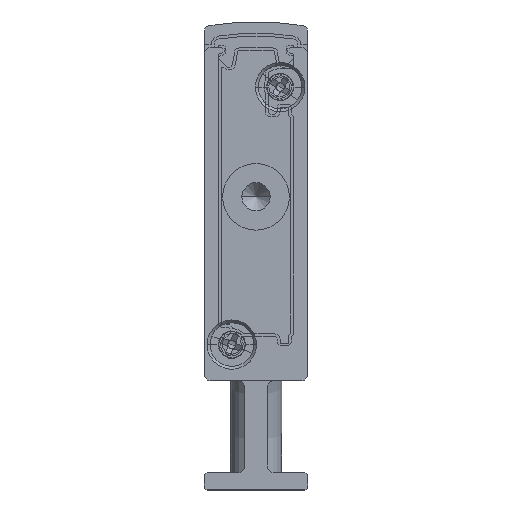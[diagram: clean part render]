
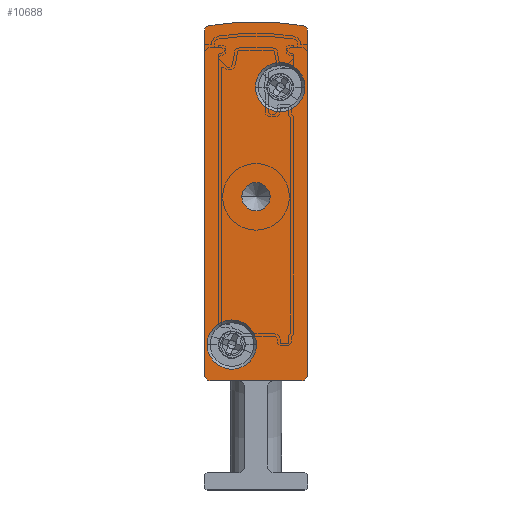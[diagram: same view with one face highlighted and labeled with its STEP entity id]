
A CAD part, front view. The second image highlights one B-rep face of the part: STEP entity #10688.
In plain terms, the highlighted planar face has unit normal (0, -1, 0).
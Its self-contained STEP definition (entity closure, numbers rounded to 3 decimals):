
#364 = CARTESIAN_POINT ( 'NONE',  ( 9., -2.5, 39.902 ) ) ;
#408 = DIRECTION ( 'NONE',  ( 0., 1., 0. ) ) ;
#667 = ORIENTED_EDGE ( 'NONE', *, *, #8329, .F. ) ;
#1035 = EDGE_CURVE ( 'NONE', #7669, #11381, #2316, .T. ) ;
#1284 = VERTEX_POINT ( 'NONE', #4800 ) ;
#1602 = CARTESIAN_POINT ( 'NONE',  ( 0., -2.5, 39.902 ) ) ;
#1928 = EDGE_CURVE ( 'NONE', #9806, #6538, #18126, .T. ) ;
#1998 = DIRECTION ( 'NONE',  ( 0., -1., 0. ) ) ;
#2012 = AXIS2_PLACEMENT_3D ( 'NONE', #7307, #2748, #17922 ) ;
#2306 = EDGE_LOOP ( 'NONE', ( #4945, #10925 ) ) ;
#2316 = CIRCLE ( 'NONE', #8695, 0.5 ) ;
#2382 = VERTEX_POINT ( 'NONE', #2643 ) ;
#2415 = FACE_BOUND ( 'NONE', #10074, .T. ) ;
#2435 = CARTESIAN_POINT ( 'NONE',  ( 5.75, -2.5, 25.5 ) ) ;
#2544 = CIRCLE ( 'NONE', #8162, 1.25 ) ;
#2643 = CARTESIAN_POINT ( 'NONE',  ( 3.25, -2.5, 25.5 ) ) ;
#2671 = DIRECTION ( 'NONE',  ( 1., 0., 0. ) ) ;
#2748 = DIRECTION ( 'NONE',  ( 0., -1., 0. ) ) ;
#2837 = AXIS2_PLACEMENT_3D ( 'NONE', #8946, #16389, #2671 ) ;
#2947 = EDGE_CURVE ( 'NONE', #6538, #9806, #7853, .T. ) ;
#3009 = ORIENTED_EDGE ( 'NONE', *, *, #11232, .F. ) ;
#3439 = ORIENTED_EDGE ( 'NONE', *, *, #6491, .F. ) ;
#3579 = EDGE_CURVE ( 'NONE', #13659, #1284, #7066, .T. ) ;
#4080 = DIRECTION ( 'NONE',  ( 0., 0., -1. ) ) ;
#4334 = CARTESIAN_POINT ( 'NONE',  ( 0., -2.5, 10. ) ) ;
#4800 = CARTESIAN_POINT ( 'NONE',  ( 9., -2.5, 10. ) ) ;
#4945 = ORIENTED_EDGE ( 'NONE', *, *, #2947, .F. ) ;
#5347 = CARTESIAN_POINT ( 'NONE',  ( 4.5, -2.5, 25.5 ) ) ;
#5508 = CARTESIAN_POINT ( 'NONE',  ( 4.55, -2.5, 12.65 ) ) ;
#5537 = AXIS2_PLACEMENT_3D ( 'NONE', #10516, #19661, #12052 ) ;
#5989 = FACE_BOUND ( 'NONE', #6656, .T. ) ;
#6016 = VERTEX_POINT ( 'NONE', #12916 ) ;
#6090 = CARTESIAN_POINT ( 'NONE',  ( 0.5, -2.5, 39.902 ) ) ;
#6378 = LINE ( 'NONE', #13244, #15386 ) ;
#6456 = DIRECTION ( 'NONE',  ( 1., 0., 0. ) ) ;
#6491 = EDGE_CURVE ( 'NONE', #9085, #16703, #13402, .T. ) ;
#6538 = VERTEX_POINT ( 'NONE', #5508 ) ;
#6613 = AXIS2_PLACEMENT_3D ( 'NONE', #6984, #1998, #6456 ) ;
#6656 = EDGE_LOOP ( 'NONE', ( #6738, #18207 ) ) ;
#6738 = ORIENTED_EDGE ( 'NONE', *, *, #8970, .T. ) ;
#6958 = CARTESIAN_POINT ( 'NONE',  ( 9., -2.5, 39.902 ) ) ;
#6984 = CARTESIAN_POINT ( 'NONE',  ( 2.4, -2.5, 12.65 ) ) ;
#6998 = CARTESIAN_POINT ( 'NONE',  ( 6.6, -2.5, 35.05 ) ) ;
#7066 = LINE ( 'NONE', #6958, #13218 ) ;
#7307 = CARTESIAN_POINT ( 'NONE',  ( 6.6, -2.5, 35.05 ) ) ;
#7387 = EDGE_CURVE ( 'NONE', #1284, #12884, #17859, .T. ) ;
#7487 = CARTESIAN_POINT ( 'NONE',  ( 0.5, -2.5, 9.5 ) ) ;
#7669 = VERTEX_POINT ( 'NONE', #7487 ) ;
#7717 = ORIENTED_EDGE ( 'NONE', *, *, #12417, .F. ) ;
#7853 = CIRCLE ( 'NONE', #6613, 2.15 ) ;
#7902 = CARTESIAN_POINT ( 'NONE',  ( 4.45, -2.5, 35.05 ) ) ;
#7939 = CARTESIAN_POINT ( 'NONE',  ( 4.5, -2.5, 17.092 ) ) ;
#8139 = ORIENTED_EDGE ( 'NONE', *, *, #7387, .F. ) ;
#8162 = AXIS2_PLACEMENT_3D ( 'NONE', #11686, #14454, #10084 ) ;
#8289 = DIRECTION ( 'NONE',  ( 0., 1., 0. ) ) ;
#8329 = EDGE_CURVE ( 'NONE', #16703, #9085, #18713, .T. ) ;
#8695 = AXIS2_PLACEMENT_3D ( 'NONE', #10134, #13064, #13193 ) ;
#8923 = DIRECTION ( 'NONE',  ( 0., 0., 1. ) ) ;
#8946 = CARTESIAN_POINT ( 'NONE',  ( 2.4, -2.5, 12.65 ) ) ;
#8970 = EDGE_CURVE ( 'NONE', #2382, #17393, #2544, .T. ) ;
#9085 = VERTEX_POINT ( 'NONE', #7902 ) ;
#9154 = VERTEX_POINT ( 'NONE', #15451 ) ;
#9315 = EDGE_CURVE ( 'NONE', #17393, #2382, #19071, .T. ) ;
#9533 = EDGE_CURVE ( 'NONE', #18261, #9154, #19042, .T. ) ;
#9688 = CARTESIAN_POINT ( 'NONE',  ( 0.25, -2.5, 12.65 ) ) ;
#9770 = DIRECTION ( 'NONE',  ( -1., 0., 0. ) ) ;
#9806 = VERTEX_POINT ( 'NONE', #9688 ) ;
#9911 = DIRECTION ( 'NONE',  ( -1., 0., 0. ) ) ;
#10074 = EDGE_LOOP ( 'NONE', ( #667, #3439 ) ) ;
#10084 = DIRECTION ( 'NONE',  ( -1., 0., 0. ) ) ;
#10134 = CARTESIAN_POINT ( 'NONE',  ( 0.5, -2.5, 10. ) ) ;
#10258 = DIRECTION ( 'NONE',  ( -1., 0., 0. ) ) ;
#10326 = AXIS2_PLACEMENT_3D ( 'NONE', #11359, #8289, #13016 ) ;
#10425 = VECTOR ( 'NONE', #8923, 1000. ) ;
#10516 = CARTESIAN_POINT ( 'NONE',  ( 0.5, -2.5, 39.902 ) ) ;
#10519 = CARTESIAN_POINT ( 'NONE',  ( 0., -2.5, 39.902 ) ) ;
#10561 = ORIENTED_EDGE ( 'NONE', *, *, #16211, .F. ) ;
#10652 = DIRECTION ( 'NONE',  ( 0., 1., 0. ) ) ;
#10688 = ADVANCED_FACE ( 'NONE', ( #2415, #18082, #14015, #5989 ), #12054, .F. ) ;
#10925 = ORIENTED_EDGE ( 'NONE', *, *, #1928, .F. ) ;
#11232 = EDGE_CURVE ( 'NONE', #12884, #7669, #6378, .T. ) ;
#11359 = CARTESIAN_POINT ( 'NONE',  ( 8.5, -2.5, 39.902 ) ) ;
#11381 = VERTEX_POINT ( 'NONE', #4334 ) ;
#11383 = DIRECTION ( 'NONE',  ( 0., 1., 0. ) ) ;
#11480 = ORIENTED_EDGE ( 'NONE', *, *, #3579, .F. ) ;
#11686 = CARTESIAN_POINT ( 'NONE',  ( 4.5, -2.5, 25.5 ) ) ;
#12002 = ORIENTED_EDGE ( 'NONE', *, *, #9533, .F. ) ;
#12052 = DIRECTION ( 'NONE',  ( -1., 0., 0. ) ) ;
#12054 = PLANE ( 'NONE',  #19539 ) ;
#12417 = EDGE_CURVE ( 'NONE', #11381, #18261, #16853, .T. ) ;
#12732 = EDGE_CURVE ( 'NONE', #6016, #13659, #17484, .T. ) ;
#12763 = DIRECTION ( 'NONE',  ( 0., 1., 0. ) ) ;
#12884 = VERTEX_POINT ( 'NONE', #17865 ) ;
#12897 = DIRECTION ( 'NONE',  ( 1., 0., 0. ) ) ;
#12916 = CARTESIAN_POINT ( 'NONE',  ( 8.592, -2.5, 40.393 ) ) ;
#12964 = AXIS2_PLACEMENT_3D ( 'NONE', #18988, #12763, #9770 ) ;
#13016 = DIRECTION ( 'NONE',  ( -1., 0., 0. ) ) ;
#13064 = DIRECTION ( 'NONE',  ( 0., 1., 0. ) ) ;
#13193 = DIRECTION ( 'NONE',  ( -1., 0., 0. ) ) ;
#13218 = VECTOR ( 'NONE', #4080, 1000. ) ;
#13244 = CARTESIAN_POINT ( 'NONE',  ( 0.5, -2.5, 9.5 ) ) ;
#13398 = EDGE_LOOP ( 'NONE', ( #12002, #7717, #19687, #3009, #8139, #11480, #13449, #10561 ) ) ;
#13402 = CIRCLE ( 'NONE', #2012, 2.15 ) ;
#13449 = ORIENTED_EDGE ( 'NONE', *, *, #12732, .F. ) ;
#13518 = AXIS2_PLACEMENT_3D ( 'NONE', #5347, #11383, #9911 ) ;
#13659 = VERTEX_POINT ( 'NONE', #364 ) ;
#13745 = CARTESIAN_POINT ( 'NONE',  ( 8.75, -2.5, 35.05 ) ) ;
#14015 = FACE_OUTER_BOUND ( 'NONE', #13398, .T. ) ;
#14454 = DIRECTION ( 'NONE',  ( 0., 1., 0. ) ) ;
#14964 = DIRECTION ( 'NONE',  ( -1., 0., 0. ) ) ;
#15386 = VECTOR ( 'NONE', #10258, 1000. ) ;
#15451 = CARTESIAN_POINT ( 'NONE',  ( 0.408, -2.5, 40.393 ) ) ;
#16211 = EDGE_CURVE ( 'NONE', #9154, #6016, #17737, .T. ) ;
#16389 = DIRECTION ( 'NONE',  ( 0., -1., 0. ) ) ;
#16703 = VERTEX_POINT ( 'NONE', #13745 ) ;
#16853 = LINE ( 'NONE', #10519, #10425 ) ;
#17393 = VERTEX_POINT ( 'NONE', #2435 ) ;
#17484 = CIRCLE ( 'NONE', #10326, 0.5 ) ;
#17610 = DIRECTION ( 'NONE',  ( 0., -1., 0. ) ) ;
#17737 = CIRCLE ( 'NONE', #17743, 23.658 ) ;
#17743 = AXIS2_PLACEMENT_3D ( 'NONE', #7939, #408, #18555 ) ;
#17859 = CIRCLE ( 'NONE', #12964, 0.5 ) ;
#17865 = CARTESIAN_POINT ( 'NONE',  ( 8.5, -2.5, 9.5 ) ) ;
#17922 = DIRECTION ( 'NONE',  ( 1., 0., 0. ) ) ;
#18082 = FACE_BOUND ( 'NONE', #2306, .T. ) ;
#18126 = CIRCLE ( 'NONE', #2837, 2.15 ) ;
#18207 = ORIENTED_EDGE ( 'NONE', *, *, #9315, .T. ) ;
#18261 = VERTEX_POINT ( 'NONE', #1602 ) ;
#18555 = DIRECTION ( 'NONE',  ( -1., 0., 0. ) ) ;
#18713 = CIRCLE ( 'NONE', #18828, 2.15 ) ;
#18828 = AXIS2_PLACEMENT_3D ( 'NONE', #6998, #17610, #12897 ) ;
#18988 = CARTESIAN_POINT ( 'NONE',  ( 8.5, -2.5, 10. ) ) ;
#19042 = CIRCLE ( 'NONE', #5537, 0.5 ) ;
#19071 = CIRCLE ( 'NONE', #13518, 1.25 ) ;
#19539 = AXIS2_PLACEMENT_3D ( 'NONE', #6090, #10652, #14964 ) ;
#19661 = DIRECTION ( 'NONE',  ( 0., 1., 0. ) ) ;
#19687 = ORIENTED_EDGE ( 'NONE', *, *, #1035, .F. ) ;
